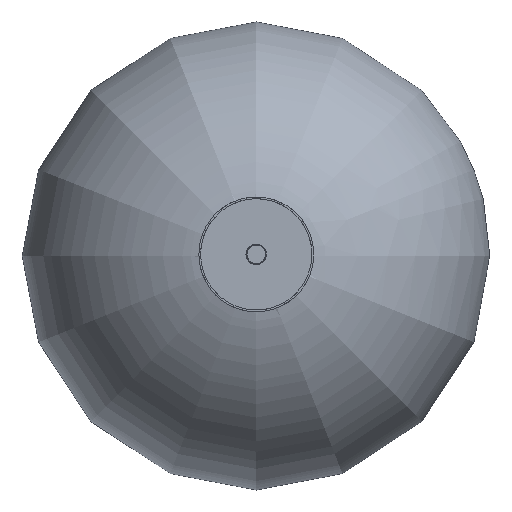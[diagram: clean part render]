
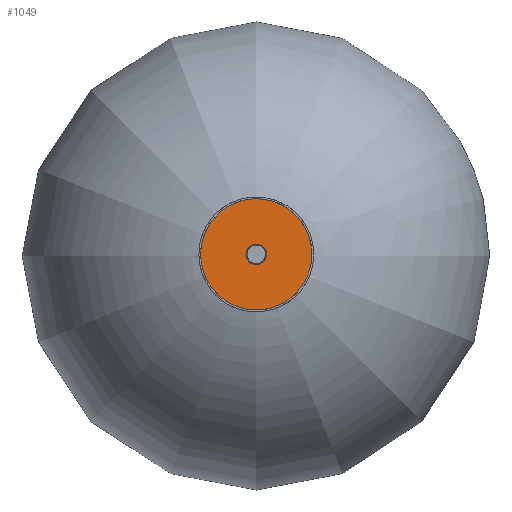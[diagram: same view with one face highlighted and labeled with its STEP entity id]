
A CAD part, top view. The second image highlights one B-rep face of the part: STEP entity #1049.
In plain terms, the highlighted free-form (B-spline) face has degree [2, 1] with [9, 2] control points.
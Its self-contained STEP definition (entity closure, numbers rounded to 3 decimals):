
#115=(
BOUNDED_SURFACE()
B_SPLINE_SURFACE(2,1,((#56584,#56585),(#56586,#56587),(#56588,#56589),(#56590,
#56591),(#56592,#56593),(#56594,#56595),(#56596,#56597),(#56598,#56599),
(#56600,#56601)),.UNSPECIFIED.,.T.,.F.,.F.)
B_SPLINE_SURFACE_WITH_KNOTS((3,2,2,2,3),(2,2),(0.,78.54,157.08,
235.619,314.159),(89.9,130.3),
 .UNSPECIFIED.)
GEOMETRIC_REPRESENTATION_ITEM()
RATIONAL_B_SPLINE_SURFACE(((1.,1.),(0.707,0.707),
(1.,1.),(0.707,0.707),(1.,1.),(0.707,
0.707),(1.,1.),(0.707,0.707),(1.,1.)))
REPRESENTATION_ITEM('')
SURFACE()
);
#638=B_SPLINE_CURVE_WITH_KNOTS('',1,(#56650,#56651),.UNSPECIFIED.,.F.,.F.,
(2,2),(89.9,130.3),.UNSPECIFIED.);
#1049=ADVANCED_FACE('',(#1395),#115,.T.);
#1395=FACE_OUTER_BOUND('',#1782,.T.);
#1782=EDGE_LOOP('',(#3420,#3421,#3422,#3423));
#3420=ORIENTED_EDGE('',*,*,#4245,.F.);
#3421=ORIENTED_EDGE('',*,*,#4250,.T.);
#3422=ORIENTED_EDGE('',*,*,#4245,.T.);
#3423=ORIENTED_EDGE('',*,*,#4251,.F.);
#4245=EDGE_CURVE('',#5080,#5079,#638,.T.);
#4250=EDGE_CURVE('',#5080,#5080,#4554,.T.);
#4251=EDGE_CURVE('',#5079,#5079,#4555,.T.);
#4554=(
BOUNDED_CURVE()
B_SPLINE_CURVE(2,(#56674,#56675,#56676,#56677,#56678,#56679,#56680,#56681,
#56682),.UNSPECIFIED.,.T.,.F.)
B_SPLINE_CURVE_WITH_KNOTS((3,2,2,2,3),(0.,78.54,157.08,
235.619,314.159),.UNSPECIFIED.)
CURVE()
GEOMETRIC_REPRESENTATION_ITEM()
RATIONAL_B_SPLINE_CURVE((1.,0.707,1.,0.707,1.,0.707,
1.,0.707,1.))
REPRESENTATION_ITEM('')
);
#4555=(
BOUNDED_CURVE()
B_SPLINE_CURVE(2,(#56683,#56684,#56685,#56686,#56687,#56688,#56689,#56690,
#56691),.UNSPECIFIED.,.T.,.F.)
B_SPLINE_CURVE_WITH_KNOTS((3,2,2,2,3),(0.,78.54,157.08,
235.619,314.159),.UNSPECIFIED.)
CURVE()
GEOMETRIC_REPRESENTATION_ITEM()
RATIONAL_B_SPLINE_CURVE((1.,0.707,1.,0.707,1.,0.707,
1.,0.707,1.))
REPRESENTATION_ITEM('')
);
#5079=VERTEX_POINT('',#56631);
#5080=VERTEX_POINT('',#56632);
#56584=CARTESIAN_POINT('',(-48.5,0.,-22.5));
#56585=CARTESIAN_POINT('',(-8.1,0.,-22.5));
#56586=CARTESIAN_POINT('',(-48.5,-48.5,-22.5));
#56587=CARTESIAN_POINT('',(-8.1,-8.1,-22.5));
#56588=CARTESIAN_POINT('',(0.,-48.5,-22.5));
#56589=CARTESIAN_POINT('',(0.,-8.1,-22.5));
#56590=CARTESIAN_POINT('',(48.5,-48.5,-22.5));
#56591=CARTESIAN_POINT('',(8.1,-8.1,-22.5));
#56592=CARTESIAN_POINT('',(48.5,0.,-22.5));
#56593=CARTESIAN_POINT('',(8.1,0.,-22.5));
#56594=CARTESIAN_POINT('',(48.5,48.5,-22.5));
#56595=CARTESIAN_POINT('',(8.1,8.1,-22.5));
#56596=CARTESIAN_POINT('',(0.,48.5,-22.5));
#56597=CARTESIAN_POINT('',(0.,8.1,-22.5));
#56598=CARTESIAN_POINT('',(-48.5,48.5,-22.5));
#56599=CARTESIAN_POINT('',(-8.1,8.1,-22.5));
#56600=CARTESIAN_POINT('',(-48.5,0.,-22.5));
#56601=CARTESIAN_POINT('',(-8.1,0.,-22.5));
#56631=CARTESIAN_POINT('',(-8.1,0.,-22.5));
#56632=CARTESIAN_POINT('',(-48.5,0.,-22.5));
#56650=CARTESIAN_POINT('',(-48.5,0.,-22.5));
#56651=CARTESIAN_POINT('',(-8.1,0.,-22.5));
#56674=CARTESIAN_POINT('',(-48.5,0.,-22.5));
#56675=CARTESIAN_POINT('',(-48.5,-48.5,-22.5));
#56676=CARTESIAN_POINT('',(0.,-48.5,-22.5));
#56677=CARTESIAN_POINT('',(48.5,-48.5,-22.5));
#56678=CARTESIAN_POINT('',(48.5,0.,-22.5));
#56679=CARTESIAN_POINT('',(48.5,48.5,-22.5));
#56680=CARTESIAN_POINT('',(0.,48.5,-22.5));
#56681=CARTESIAN_POINT('',(-48.5,48.5,-22.5));
#56682=CARTESIAN_POINT('',(-48.5,0.,-22.5));
#56683=CARTESIAN_POINT('',(-8.1,0.,-22.5));
#56684=CARTESIAN_POINT('',(-8.1,-8.1,-22.5));
#56685=CARTESIAN_POINT('',(0.,-8.1,-22.5));
#56686=CARTESIAN_POINT('',(8.1,-8.1,-22.5));
#56687=CARTESIAN_POINT('',(8.1,0.,-22.5));
#56688=CARTESIAN_POINT('',(8.1,8.1,-22.5));
#56689=CARTESIAN_POINT('',(0.,8.1,-22.5));
#56690=CARTESIAN_POINT('',(-8.1,8.1,-22.5));
#56691=CARTESIAN_POINT('',(-8.1,0.,-22.5));
